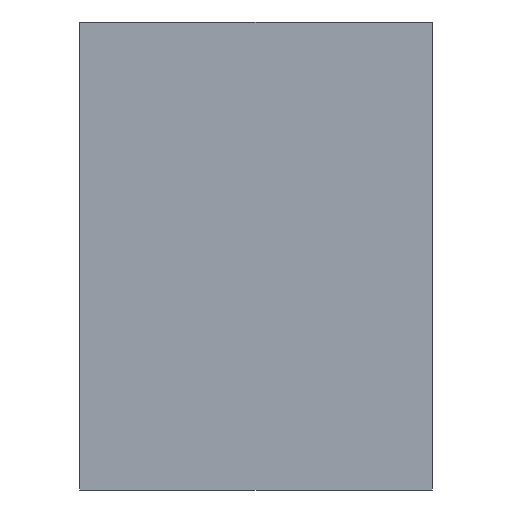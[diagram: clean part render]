
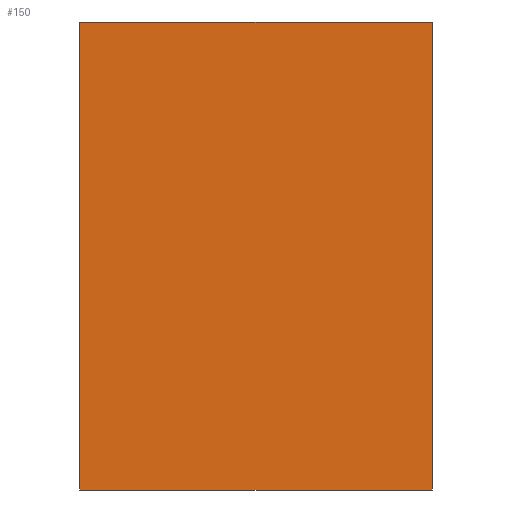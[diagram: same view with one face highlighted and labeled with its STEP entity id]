
A CAD part, front view. The second image highlights one B-rep face of the part: STEP entity #150.
In plain terms, the highlighted planar face has unit normal (0, -1, 0).
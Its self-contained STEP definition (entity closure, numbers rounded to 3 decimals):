
#107=PLANE('',#623);
#121=FACE_OUTER_BOUND('',#297,.T.);
#123=LINE('',#875,#135);
#124=LINE('',#878,#136);
#125=LINE('',#880,#137);
#126=LINE('',#882,#138);
#135=VECTOR('',#711,1.);
#136=VECTOR('',#712,1.);
#137=VECTOR('',#713,1.);
#138=VECTOR('',#714,1.);
#150=ADVANCED_FACE('',(#121),#107,.F.);
#297=EDGE_LOOP('',(#379,#380,#381,#382));
#379=ORIENTED_EDGE('',*,*,#531,.T.);
#380=ORIENTED_EDGE('',*,*,#532,.F.);
#381=ORIENTED_EDGE('',*,*,#533,.F.);
#382=ORIENTED_EDGE('',*,*,#534,.T.);
#479=VERTEX_POINT('',#876);
#480=VERTEX_POINT('',#877);
#481=VERTEX_POINT('',#879);
#482=VERTEX_POINT('',#881);
#531=EDGE_CURVE('',#479,#480,#123,.T.);
#532=EDGE_CURVE('',#481,#480,#124,.T.);
#533=EDGE_CURVE('',#482,#481,#125,.T.);
#534=EDGE_CURVE('',#482,#479,#126,.T.);
#623=AXIS2_PLACEMENT_3D('',#883,#715,#716);
#711=DIRECTION('',(0.,0.,1.));
#712=DIRECTION('',(1.,0.,0.));
#713=DIRECTION('',(0.,0.,1.));
#714=DIRECTION('',(1.,0.,0.));
#715=DIRECTION('',(0.,1.,0.));
#716=DIRECTION('',(0.,0.,1.));
#875=CARTESIAN_POINT('',(0.,-73.,-62.));
#876=CARTESIAN_POINT('',(0.,-73.,-62.));
#877=CARTESIAN_POINT('',(0.,-73.,64.));
#878=CARTESIAN_POINT('',(-95.,-73.,64.));
#879=CARTESIAN_POINT('',(-95.,-73.,64.));
#880=CARTESIAN_POINT('',(-95.,-73.,-62.));
#881=CARTESIAN_POINT('',(-95.,-73.,-62.));
#882=CARTESIAN_POINT('',(-95.,-73.,-62.));
#883=CARTESIAN_POINT('',(-95.,-73.,-62.));
